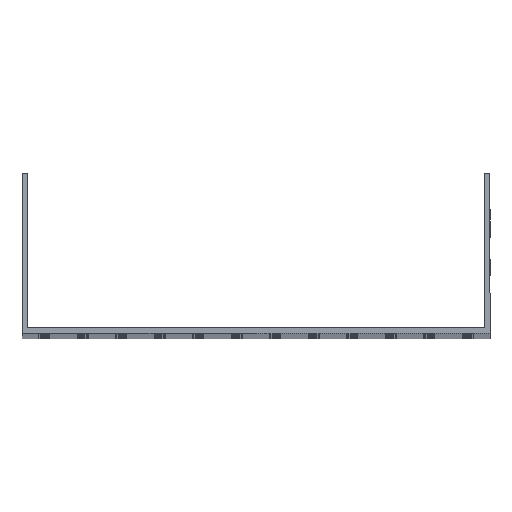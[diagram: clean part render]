
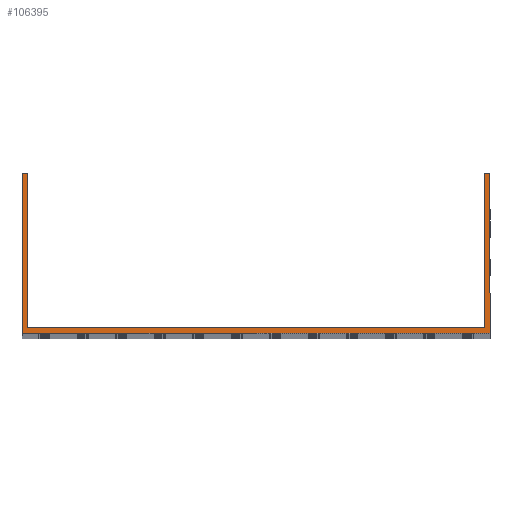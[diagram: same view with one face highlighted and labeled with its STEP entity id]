
A CAD part, top view. The second image highlights one B-rep face of the part: STEP entity #106395.
In plain terms, the highlighted planar face has unit normal (0, 0, 1).
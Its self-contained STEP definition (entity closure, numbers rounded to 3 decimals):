
#884 = VECTOR ( 'NONE', #115407, 1000. ) ;
#3469 = LINE ( 'NONE', #58795, #72009 ) ;
#6503 = CARTESIAN_POINT ( 'NONE',  ( -152., 104., 1000. ) ) ;
#8147 = PLANE ( 'NONE',  #82859 ) ;
#9544 = EDGE_CURVE ( 'NONE', #19207, #64833, #79249, .T. ) ;
#15331 = CARTESIAN_POINT ( 'NONE',  ( -152., 104., 1000. ) ) ;
#16017 = LINE ( 'NONE', #6503, #884 ) ;
#19207 = VERTEX_POINT ( 'NONE', #15331 ) ;
#19947 = DIRECTION ( 'NONE',  ( 0., -1., 0. ) ) ;
#21435 = VERTEX_POINT ( 'NONE', #49490 ) ;
#23377 = LINE ( 'NONE', #103755, #60272 ) ;
#23638 = LINE ( 'NONE', #24810, #46730 ) ;
#24810 = CARTESIAN_POINT ( 'NONE',  ( 152., 104., 1000. ) ) ;
#25847 = ORIENTED_EDGE ( 'NONE', *, *, #93110, .T. ) ;
#28707 = ORIENTED_EDGE ( 'NONE', *, *, #54079, .T. ) ;
#31817 = CARTESIAN_POINT ( 'NONE',  ( -148.5, 104., 1000. ) ) ;
#35519 = DIRECTION ( 'NONE',  ( 1., 0., 0. ) ) ;
#38779 = VERTEX_POINT ( 'NONE', #73927 ) ;
#39757 = DIRECTION ( 'NONE',  ( 0., 1., 0. ) ) ;
#40660 = DIRECTION ( 'NONE',  ( -1., 0., 0. ) ) ;
#44191 = EDGE_CURVE ( 'NONE', #88068, #48964, #58595, .T. ) ;
#46730 = VECTOR ( 'NONE', #78381, 1000. ) ;
#47144 = CARTESIAN_POINT ( 'NONE',  ( -152., 3.5, 1000. ) ) ;
#48964 = VERTEX_POINT ( 'NONE', #49643 ) ;
#49490 = CARTESIAN_POINT ( 'NONE',  ( 148.5, 3.5, 1000. ) ) ;
#49643 = CARTESIAN_POINT ( 'NONE',  ( -148.5, 3.5, 1000. ) ) ;
#52288 = CARTESIAN_POINT ( 'NONE',  ( -152., 0., 1000. ) ) ;
#52377 = EDGE_CURVE ( 'NONE', #63810, #38779, #16017, .T. ) ;
#52822 = ORIENTED_EDGE ( 'NONE', *, *, #73513, .F. ) ;
#52952 = CARTESIAN_POINT ( 'NONE',  ( -148.5, 104., 1000. ) ) ;
#54039 = ORIENTED_EDGE ( 'NONE', *, *, #44191, .F. ) ;
#54079 = EDGE_CURVE ( 'NONE', #108444, #63810, #23638, .T. ) ;
#55103 = ORIENTED_EDGE ( 'NONE', *, *, #9544, .T. ) ;
#55937 = CARTESIAN_POINT ( 'NONE',  ( 152., 0., 1000. ) ) ;
#56665 = DIRECTION ( 'NONE',  ( 1., 0., 0. ) ) ;
#58595 = LINE ( 'NONE', #31817, #89266 ) ;
#58795 = CARTESIAN_POINT ( 'NONE',  ( 148.5, 104., 1000. ) ) ;
#60272 = VECTOR ( 'NONE', #40660, 1000. ) ;
#60607 = VECTOR ( 'NONE', #114585, 1000. ) ;
#63613 = VECTOR ( 'NONE', #87581, 1000. ) ;
#63810 = VERTEX_POINT ( 'NONE', #88690 ) ;
#64833 = VERTEX_POINT ( 'NONE', #52288 ) ;
#66773 = ORIENTED_EDGE ( 'NONE', *, *, #108005, .F. ) ;
#68027 = ORIENTED_EDGE ( 'NONE', *, *, #106829, .T. ) ;
#69353 = CARTESIAN_POINT ( 'NONE',  ( -152., 0., 1000. ) ) ;
#72009 = VECTOR ( 'NONE', #39757, 1000. ) ;
#73513 = EDGE_CURVE ( 'NONE', #21435, #38779, #3469, .T. ) ;
#73927 = CARTESIAN_POINT ( 'NONE',  ( 148.5, 104., 1000. ) ) ;
#73941 = EDGE_LOOP ( 'NONE', ( #54039, #25847, #55103, #68027, #28707, #114372, #52822, #66773 ) ) ;
#78381 = DIRECTION ( 'NONE',  ( 0., 1., 0. ) ) ;
#79249 = LINE ( 'NONE', #107199, #63613 ) ;
#79797 = VECTOR ( 'NONE', #56665, 1000. ) ;
#82859 = AXIS2_PLACEMENT_3D ( 'NONE', #99186, #117059, #35519 ) ;
#87581 = DIRECTION ( 'NONE',  ( 0., -1., 0. ) ) ;
#88068 = VERTEX_POINT ( 'NONE', #52952 ) ;
#88690 = CARTESIAN_POINT ( 'NONE',  ( 152., 104., 1000. ) ) ;
#89266 = VECTOR ( 'NONE', #19947, 1000. ) ;
#93110 = EDGE_CURVE ( 'NONE', #88068, #19207, #23377, .T. ) ;
#99186 = CARTESIAN_POINT ( 'NONE',  ( 0., 0., 1000. ) ) ;
#103075 = LINE ( 'NONE', #47144, #79797 ) ;
#103755 = CARTESIAN_POINT ( 'NONE',  ( -152., 104., 1000. ) ) ;
#106395 = ADVANCED_FACE ( 'NONE', ( #114727 ), #8147, .T. ) ;
#106829 = EDGE_CURVE ( 'NONE', #64833, #108444, #107415, .T. ) ;
#107199 = CARTESIAN_POINT ( 'NONE',  ( -152., 104., 1000. ) ) ;
#107415 = LINE ( 'NONE', #69353, #60607 ) ;
#108005 = EDGE_CURVE ( 'NONE', #48964, #21435, #103075, .T. ) ;
#108444 = VERTEX_POINT ( 'NONE', #55937 ) ;
#114372 = ORIENTED_EDGE ( 'NONE', *, *, #52377, .T. ) ;
#114585 = DIRECTION ( 'NONE',  ( 1., 0., 0. ) ) ;
#114727 = FACE_OUTER_BOUND ( 'NONE', #73941, .T. ) ;
#115407 = DIRECTION ( 'NONE',  ( -1., 0., 0. ) ) ;
#117059 = DIRECTION ( 'NONE',  ( 0., 0., 1. ) ) ;
